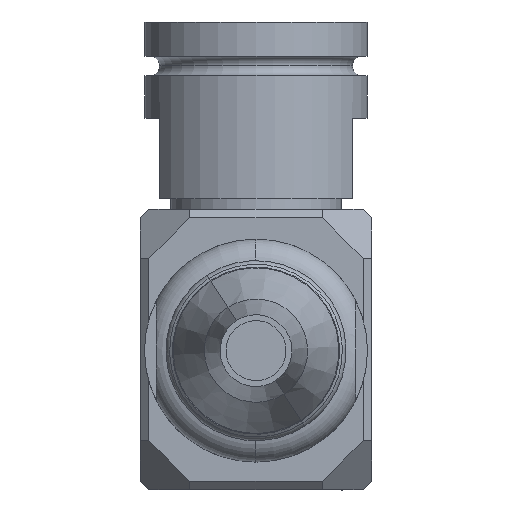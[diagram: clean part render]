
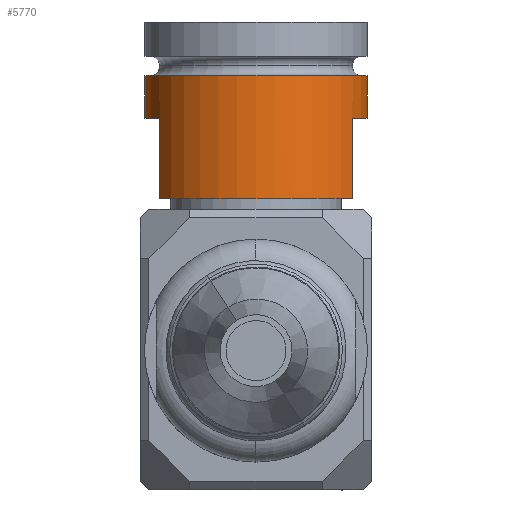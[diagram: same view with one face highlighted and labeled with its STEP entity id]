
A CAD part, front view. The second image highlights one B-rep face of the part: STEP entity #5770.
In plain terms, the highlighted cylindrical face has radius 13.208 mm (diameter 26.416 mm), a partial arc.
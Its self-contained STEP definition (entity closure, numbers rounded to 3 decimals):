
#16 = CYLINDRICAL_SURFACE ( 'NONE', #5754, 13.208 ) ;
#424 = EDGE_CURVE ( 'NONE', #7609, #8328, #1379, .T. ) ;
#588 = CARTESIAN_POINT ( 'NONE',  ( 0., 0., -12.497 ) ) ;
#661 = AXIS2_PLACEMENT_3D ( 'NONE', #1434, #1577, #4322 ) ;
#663 = ORIENTED_EDGE ( 'NONE', *, *, #7365, .F. ) ;
#771 = DIRECTION ( 'NONE',  ( 0., 0., -1. ) ) ;
#1230 = ORIENTED_EDGE ( 'NONE', *, *, #5106, .T. ) ;
#1379 = LINE ( 'NONE', #2147, #2020 ) ;
#1434 = CARTESIAN_POINT ( 'NONE',  ( 0., 0., -2.972 ) ) ;
#1577 = DIRECTION ( 'NONE',  ( 0., 0., -1. ) ) ;
#1714 = ORIENTED_EDGE ( 'NONE', *, *, #8899, .F. ) ;
#1983 = DIRECTION ( 'NONE',  ( 0., 0., -1. ) ) ;
#2020 = VECTOR ( 'NONE', #5593, 1000. ) ;
#2040 = DIRECTION ( 'NONE',  ( 1., 0., 0. ) ) ;
#2080 = VERTEX_POINT ( 'NONE', #5989 ) ;
#2137 = DIRECTION ( 'NONE',  ( -1., 0., 0. ) ) ;
#2147 = CARTESIAN_POINT ( 'NONE',  ( 13.208, 0., 8.458 ) ) ;
#2187 = DIRECTION ( 'NONE',  ( 0., 0., -1. ) ) ;
#2253 = VERTEX_POINT ( 'NONE', #2659 ) ;
#2289 = CARTESIAN_POINT ( 'NONE',  ( 11.43, -6.619, -2.972 ) ) ;
#2659 = CARTESIAN_POINT ( 'NONE',  ( -11.43, -6.619, -2.972 ) ) ;
#2761 = CARTESIAN_POINT ( 'NONE',  ( 11.43, -6.619, -2.972 ) ) ;
#2831 = ORIENTED_EDGE ( 'NONE', *, *, #8104, .F. ) ;
#2917 = LINE ( 'NONE', #2289, #4578 ) ;
#3080 = DIRECTION ( 'NONE',  ( 1., 0., 0. ) ) ;
#3314 = CARTESIAN_POINT ( 'NONE',  ( 13.208, 0., 2.108 ) ) ;
#3332 = LINE ( 'NONE', #6202, #7705 ) ;
#3502 = CARTESIAN_POINT ( 'NONE',  ( -13.208, 0., 8.458 ) ) ;
#3586 = CARTESIAN_POINT ( 'NONE',  ( -13.208, 0., 2.108 ) ) ;
#3656 = AXIS2_PLACEMENT_3D ( 'NONE', #5766, #771, #3080 ) ;
#3794 = VERTEX_POINT ( 'NONE', #7691 ) ;
#4165 = EDGE_LOOP ( 'NONE', ( #6675, #1230, #663, #5014, #1714, #2831, #8422, #7021 ) ) ;
#4322 = DIRECTION ( 'NONE',  ( 1., 0., 0. ) ) ;
#4578 = VECTOR ( 'NONE', #6622, 1000. ) ;
#4707 = CIRCLE ( 'NONE', #661, 13.208 ) ;
#4847 = EDGE_CURVE ( 'NONE', #7609, #6273, #5905, .T. ) ;
#4871 = DIRECTION ( 'NONE',  ( 1., 0., 0. ) ) ;
#4958 = DIRECTION ( 'NONE',  ( 0., 0., -1. ) ) ;
#4970 = FACE_OUTER_BOUND ( 'NONE', #4165, .T. ) ;
#5014 = ORIENTED_EDGE ( 'NONE', *, *, #5426, .T. ) ;
#5063 = CARTESIAN_POINT ( 'NONE',  ( 0., 0., 8.458 ) ) ;
#5067 = CARTESIAN_POINT ( 'NONE',  ( 0., 0., -2.972 ) ) ;
#5106 = EDGE_CURVE ( 'NONE', #6273, #7318, #6927, .T. ) ;
#5426 = EDGE_CURVE ( 'NONE', #2253, #3794, #3332, .T. ) ;
#5593 = DIRECTION ( 'NONE',  ( 0., 0., -1. ) ) ;
#5674 = DIRECTION ( 'NONE',  ( 0., 0., -1. ) ) ;
#5754 = AXIS2_PLACEMENT_3D ( 'NONE', #5063, #5674, #2040 ) ;
#5766 = CARTESIAN_POINT ( 'NONE',  ( 0., 0., 2.108 ) ) ;
#5770 = ADVANCED_FACE ( 'NONE', ( #4970 ), #16, .T. ) ;
#5905 = CIRCLE ( 'NONE', #3656, 13.208 ) ;
#5989 = CARTESIAN_POINT ( 'NONE',  ( 11.43, -6.619, -12.497 ) ) ;
#6053 = VECTOR ( 'NONE', #4958, 1000. ) ;
#6202 = CARTESIAN_POINT ( 'NONE',  ( -11.43, -6.619, -2.972 ) ) ;
#6221 = CIRCLE ( 'NONE', #6669, 13.208 ) ;
#6243 = CARTESIAN_POINT ( 'NONE',  ( 13.208, 0., -2.972 ) ) ;
#6273 = VERTEX_POINT ( 'NONE', #3586 ) ;
#6622 = DIRECTION ( 'NONE',  ( 0., 0., -1. ) ) ;
#6669 = AXIS2_PLACEMENT_3D ( 'NONE', #588, #1983, #4871 ) ;
#6675 = ORIENTED_EDGE ( 'NONE', *, *, #4847, .T. ) ;
#6927 = LINE ( 'NONE', #3502, #6053 ) ;
#6938 = EDGE_CURVE ( 'NONE', #8328, #7342, #4707, .T. ) ;
#7021 = ORIENTED_EDGE ( 'NONE', *, *, #424, .F. ) ;
#7044 = CARTESIAN_POINT ( 'NONE',  ( -13.208, 0., -2.972 ) ) ;
#7318 = VERTEX_POINT ( 'NONE', #7044 ) ;
#7342 = VERTEX_POINT ( 'NONE', #2761 ) ;
#7365 = EDGE_CURVE ( 'NONE', #2253, #7318, #8338, .T. ) ;
#7434 = AXIS2_PLACEMENT_3D ( 'NONE', #5067, #2187, #2137 ) ;
#7609 = VERTEX_POINT ( 'NONE', #3314 ) ;
#7691 = CARTESIAN_POINT ( 'NONE',  ( -11.43, -6.619, -12.497 ) ) ;
#7705 = VECTOR ( 'NONE', #9087, 1000. ) ;
#8104 = EDGE_CURVE ( 'NONE', #7342, #2080, #2917, .T. ) ;
#8328 = VERTEX_POINT ( 'NONE', #6243 ) ;
#8338 = CIRCLE ( 'NONE', #7434, 13.208 ) ;
#8422 = ORIENTED_EDGE ( 'NONE', *, *, #6938, .F. ) ;
#8899 = EDGE_CURVE ( 'NONE', #2080, #3794, #6221, .T. ) ;
#9087 = DIRECTION ( 'NONE',  ( 0., 0., -1. ) ) ;
